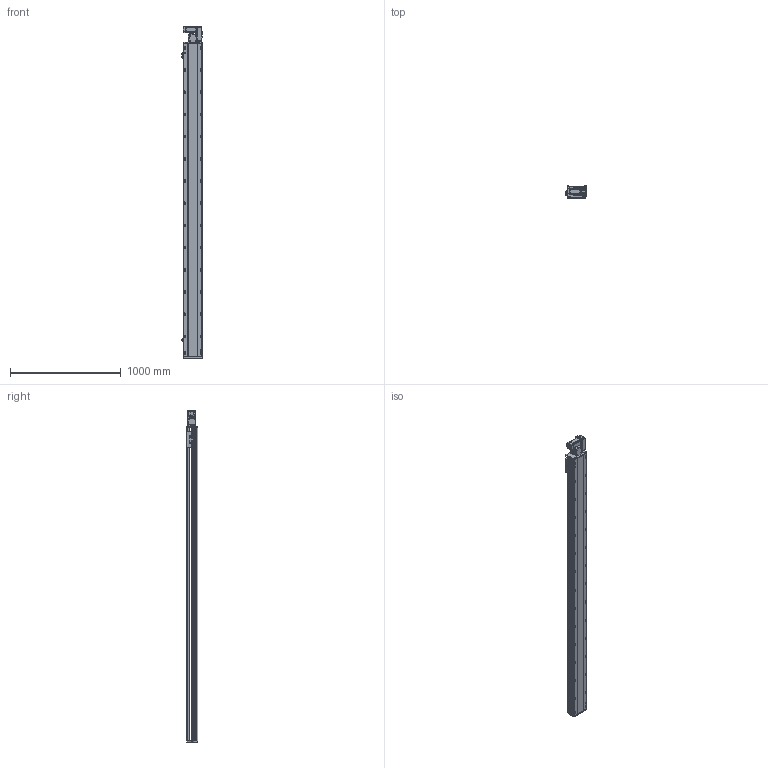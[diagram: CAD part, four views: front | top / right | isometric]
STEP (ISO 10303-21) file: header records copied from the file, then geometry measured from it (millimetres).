
FILE_DESCRIPTION (( 'STEP AP214' ), '1' );
FILE_NAME ('RTB17S-XX-2550-R-M40-C4.STEP', '2025-12-11T07:51:48', ( '' ), ( '' ), 'SwSTEP 2.0', 'SolidWorks 2018', '' );
FILE_SCHEMA (( 'AUTOMOTIVE_DESIGN' ));
Length unit declared in the file: millimetre
Products named in the file (14): RTB14-L-005P--轴承塑胶压盖^RTB17S-R-皮带座装配-400W_RTB17S-XX-XX-R-M40-C4; 400W侜督萇儂^RTB17S-XX-XX-R-M40-C4; RTB17S-L-014-T20--々湍釱^RTB17S-R-々湍釱蚾饜-400W_RTB17S-XX-XX-R-M40-C4; RTB17-R-011菁釱^RTB17S-XX-XX-R-M40-C4; RTB14-L-008-M20--萇儂啣^RTB17S-R-々湍釱蚾饜-400W_RTB17S-XX-XX-R-M40-C4; RTB17S-L-001耜醱啣^RTB17S-XX-XX-R-M40-C4; RTH13-BL-012覜茼え俋离^RTB17S-XX-XX-R-M40-C4; RTB17S-L-004佪裝蹟譫蟀諉釱^RTB17S-XX-XX-R-M40-C4; RTB17S-XX-2550-R-M40-C4; RTB17S-R-々湍釱蚾饜-400W^RTB17S-XX-XX-R-M40-C4; RTB14-L-017P^RTB17S-R-々湍釱蚾饜-400W_RTB17S-XX-XX-R-M40-C4; OMRON EE-SX672 传感器^RTB17S-XX-XX-R-M40-C4; RTB14-L-018P^RTB17S-R-々湍釱蚾饜-400W_RTB17S-XX-XX-R-M40-C4; RTB17S-L-007奻裔^RTB17S-XX-XX-R-M40-C4
Assembly tree (16 placements, depth 3):
  RTB17S-XX-2550-R-M40-C4
    RTB17-R-011菁釱^RTB17S-XX-XX-R-M40-C4
    RTB17S-L-007奻裔^RTB17S-XX-XX-R-M40-C4
    OMRON EE-SX672 传感器^RTB17S-XX-XX-R-M40-C4  x3
    RTB17S-L-001耜醱啣^RTB17S-XX-XX-R-M40-C4
    400W侜督萇儂^RTB17S-XX-XX-R-M40-C4
    RTB17S-L-004佪裝蹟譫蟀諉釱^RTB17S-XX-XX-R-M40-C4
    RTH13-BL-012覜茼え俋离^RTB17S-XX-XX-R-M40-C4
    RTB17S-R-々湍釱蚾饜-400W^RTB17S-XX-XX-R-M40-C4
      RTB17S-L-014-T20--々湍釱^RTB17S-R-々湍釱蚾饜-400W_RTB17S-XX-XX-R-M40-C4
      RTB14-L-005P--轴承塑胶压盖^RTB17S-R-皮带座装配-400W_RTB17S-XX-XX-R-M40-C4
      RTB14-L-008-M20--萇儂啣^RTB17S-R-々湍釱蚾饜-400W_RTB17S-XX-XX-R-M40-C4
      RTB14-L-017P^RTB17S-R-々湍釱蚾饜-400W_RTB17S-XX-XX-R-M40-C4  x2
      RTB14-L-018P^RTB17S-R-々湍釱蚾饜-400W_RTB17S-XX-XX-R-M40-C4
Bounding box: 183.5 x 108 x 2991 mm (x, y, z)
Volume: 25014468 mm3; surface area: 2876466.5 mm2
Topology: 15 solids, 15 shells, 2333 faces, 6519 edges, 4257 vertices
Faces by surface type: plane 1084, cylinder 801, bspline 301, cone 139, torus 8
Entity records: 68777 total; most frequent: CARTESIAN_POINT 19524, ORIENTED_EDGE 9882, DIRECTION 9116, EDGE_CURVE 4941, VERTEX_POINT 3245, AXIS2_PLACEMENT_3D 3175, VECTOR 2766, LINE 2766
